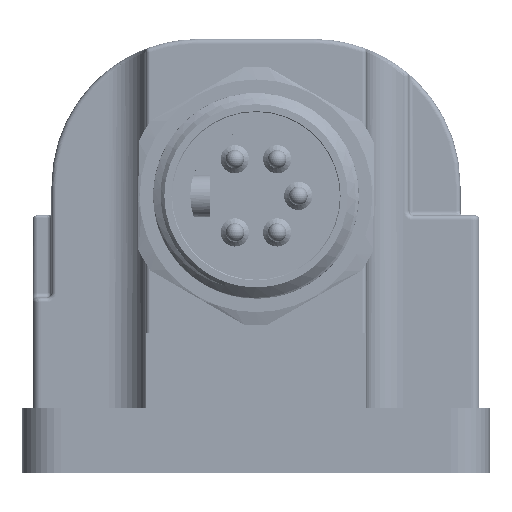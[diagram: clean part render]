
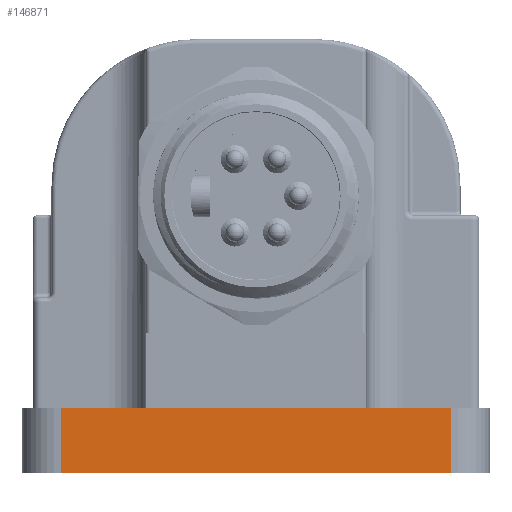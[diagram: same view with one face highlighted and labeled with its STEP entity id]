
A CAD part, left-side view. The second image highlights one B-rep face of the part: STEP entity #146871.
In plain terms, the highlighted planar face has unit normal (-1, 0, 0).
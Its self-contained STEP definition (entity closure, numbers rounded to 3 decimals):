
#18968 = LINE ( 'NONE', #26836, #18972 ) ;
#18972 = VECTOR ( 'NONE', #26838, 1000. ) ;
#21138 = AXIS2_PLACEMENT_3D ( 'NONE', #28501, #28503, #28506 ) ;
#26836 = CARTESIAN_POINT ( 'NONE',  ( -42.509, 41.391, 9.598 ) ) ;
#26838 = DIRECTION ( 'NONE',  ( 0., 0., -1. ) ) ;
#27249 = FACE_OUTER_BOUND ( 'NONE', #180594, .T. ) ;
#28498 = PLANE ( 'NONE',  #21138 ) ;
#28501 = CARTESIAN_POINT ( 'NONE',  ( -42.509, 41.391, 9.598 ) ) ;
#28503 = DIRECTION ( 'NONE',  ( 1., 0., 0. ) ) ;
#28506 = DIRECTION ( 'NONE',  ( 0., 0., -1. ) ) ;
#50427 = CARTESIAN_POINT ( 'NONE',  ( -42.509, 41.391, 2.598 ) ) ;
#50430 = CARTESIAN_POINT ( 'NONE',  ( -42.509, 41.391, 9.598 ) ) ;
#50437 = CARTESIAN_POINT ( 'NONE',  ( -42.509, -0.85, 2.598 ) ) ;
#50439 = CARTESIAN_POINT ( 'NONE',  ( -42.509, -0.85, 9.598 ) ) ;
#58152 = EDGE_CURVE ( 'NONE', #168058, #168055, #18968, .T. ) ;
#58418 = EDGE_CURVE ( 'NONE', #168058, #168067, #204237, .T. ) ;
#58426 = EDGE_CURVE ( 'NONE', #168067, #168064, #204249, .T. ) ;
#58430 = EDGE_CURVE ( 'NONE', #168055, #168064, #204258, .T. ) ;
#146871 = ADVANCED_FACE ( 'NONE', ( #27249 ), #28498, .F. ) ;
#168055 = VERTEX_POINT ( 'NONE', #50427 ) ;
#168058 = VERTEX_POINT ( 'NONE', #50430 ) ;
#168064 = VERTEX_POINT ( 'NONE', #50437 ) ;
#168067 = VERTEX_POINT ( 'NONE', #50439 ) ;
#180594 = EDGE_LOOP ( 'NONE', ( #218611, #218840, #218841, #218844 ) ) ;
#201534 = CARTESIAN_POINT ( 'NONE',  ( -42.509, 41.391, 9.598 ) ) ;
#201537 = DIRECTION ( 'NONE',  ( 0., -1., 0. ) ) ;
#201553 = CARTESIAN_POINT ( 'NONE',  ( -42.509, -0.85, 9.598 ) ) ;
#201557 = DIRECTION ( 'NONE',  ( 0., 0., -1. ) ) ;
#201574 = CARTESIAN_POINT ( 'NONE',  ( -42.509, 41.391, 2.598 ) ) ;
#201577 = DIRECTION ( 'NONE',  ( 0., -1., 0. ) ) ;
#204237 = LINE ( 'NONE', #201534, #204238 ) ;
#204238 = VECTOR ( 'NONE', #201537, 1000. ) ;
#204249 = LINE ( 'NONE', #201553, #204252 ) ;
#204252 = VECTOR ( 'NONE', #201557, 1000. ) ;
#204258 = LINE ( 'NONE', #201574, #204259 ) ;
#204259 = VECTOR ( 'NONE', #201577, 1000. ) ;
#218611 = ORIENTED_EDGE ( 'NONE', *, *, #58430, .T. ) ;
#218840 = ORIENTED_EDGE ( 'NONE', *, *, #58426, .F. ) ;
#218841 = ORIENTED_EDGE ( 'NONE', *, *, #58418, .F. ) ;
#218844 = ORIENTED_EDGE ( 'NONE', *, *, #58152, .T. ) ;
